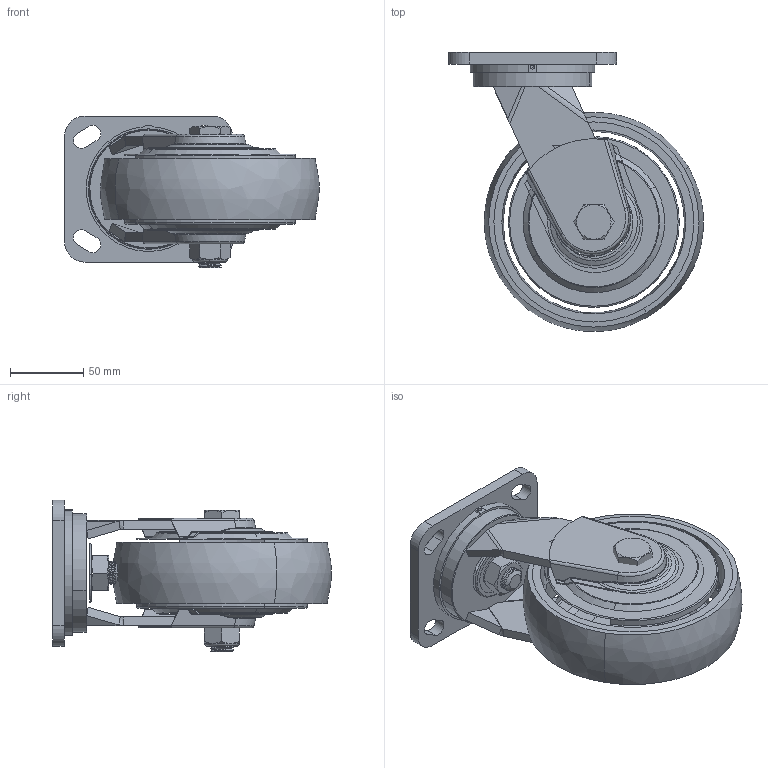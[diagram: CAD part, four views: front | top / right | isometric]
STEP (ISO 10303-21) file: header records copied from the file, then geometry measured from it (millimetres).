
FILE_DESCRIPTION((''),'2;1');
FILE_NAME('PRT0009','2025-05-21T14:49:37',('Administrator'),(''),'CREO PARAMETRIC BY PTC INC, 2022124','CREO PARAMETRIC BY PTC INC, 2022124','');
FILE_SCHEMA(('AP203_CONFIGURATION_CONTROLLED_3D_DESIGN_OF_MECHANICAL_PARTS_AND_ASSEMBLIES_MIM_LF { 1 0 10303 403 2 1 2 }'));
Length unit declared in the file: millimetre
Products named in the file (1): PRT0009
Bounding box: 174.5 x 191 x 104 mm (x, y, z)
Surface area: 148350.2 mm2 (no closed solid volume)
Topology: 0 solids, 23 shells, 218 faces, 840 edges, 647 vertices
Faces by surface type: plane 99, cylinder 47, cone 38, torus 24, bspline 10
Entity records: 12738 total; most frequent: CARTESIAN_POINT 4570, DIRECTION 1260, ORIENTED_EDGE 1210, EDGE_CURVE 840, VERTEX_POINT 647, AXIS2_PLACEMENT_3D 477, VECTOR 303, LINE 303
